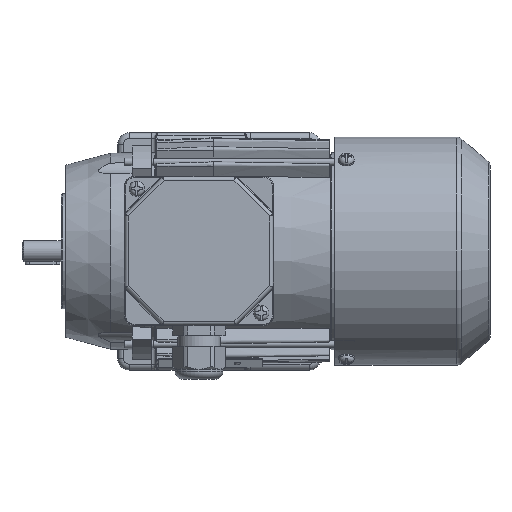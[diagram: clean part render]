
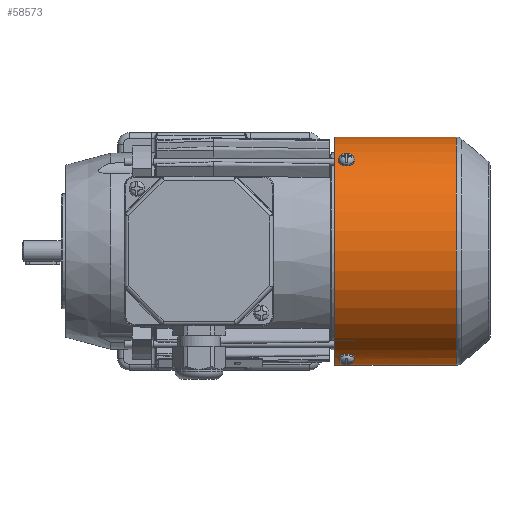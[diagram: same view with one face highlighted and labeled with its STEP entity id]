
A CAD part, top view. The second image highlights one B-rep face of the part: STEP entity #58573.
In plain terms, the highlighted cylindrical face has radius 59.6 mm (diameter 119.2 mm), a full revolution.
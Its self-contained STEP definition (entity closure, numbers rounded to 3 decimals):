
#1328=CYLINDRICAL_SURFACE('',#62226,59.6);
#1912=B_SPLINE_CURVE_WITH_KNOTS('',3,(#88319,#88320,#88321,#88322,#88323,
#88324,#88325),.UNSPECIFIED.,.F.,.F.,(4,1,1,1,4),(0.,
0.002,0.004,0.006,0.007),
 .UNSPECIFIED.);
#1913=B_SPLINE_CURVE_WITH_KNOTS('',3,(#88327,#88328,#88329,#88330,#88331,
#88332,#88333),.UNSPECIFIED.,.F.,.F.,(4,1,1,1,4),(0.,
0.002,0.004,0.006,0.007),
 .UNSPECIFIED.);
#1914=B_SPLINE_CURVE_WITH_KNOTS('',3,(#88339,#88340,#88341,#88342,#88343,
#88344,#88345),.UNSPECIFIED.,.F.,.F.,(4,1,1,1,4),(0.,0.002,
0.004,0.006,0.008),
 .UNSPECIFIED.);
#1915=B_SPLINE_CURVE_WITH_KNOTS('',3,(#88353,#88354,#88355,#88356,#88357,
#88358,#88359),.UNSPECIFIED.,.F.,.F.,(4,1,1,1,4),(0.,
0.002,0.004,0.006,0.008),
 .UNSPECIFIED.);
#1916=B_SPLINE_CURVE_WITH_KNOTS('',3,(#88370,#88371,#88372,#88373,#88374,
#88375,#88376),.UNSPECIFIED.,.F.,.F.,(4,1,1,1,4),(0.,0.002,
0.004,0.006,0.008),
 .UNSPECIFIED.);
#1917=B_SPLINE_CURVE_WITH_KNOTS('',3,(#88384,#88385,#88386,#88387,#88388,
#88389,#88390),.UNSPECIFIED.,.F.,.F.,(4,1,1,1,4),(0.,0.002,
0.004,0.006,0.008),
 .UNSPECIFIED.);
#3704=CIRCLE('',#62157,59.6);
#3705=CIRCLE('',#62160,59.6);
#3706=CIRCLE('',#62162,59.6);
#3707=CIRCLE('',#62165,59.6);
#3708=CIRCLE('',#62168,59.6);
#3734=CIRCLE('',#62227,59.6);
#13399=ORIENTED_EDGE('',*,*,#21406,.T.);
#13400=ORIENTED_EDGE('',*,*,#21404,.T.);
#13401=ORIENTED_EDGE('',*,*,#21402,.T.);
#13402=ORIENTED_EDGE('',*,*,#21407,.T.);
#13403=ORIENTED_EDGE('',*,*,#21389,.F.);
#13404=ORIENTED_EDGE('',*,*,#21390,.F.);
#13405=ORIENTED_EDGE('',*,*,#21397,.T.);
#13406=ORIENTED_EDGE('',*,*,#21395,.T.);
#13407=ORIENTED_EDGE('',*,*,#21393,.T.);
#13408=ORIENTED_EDGE('',*,*,#21398,.T.);
#13409=ORIENTED_EDGE('',*,*,#21474,.F.);
#13410=ORIENTED_EDGE('',*,*,#21399,.T.);
#21389=EDGE_CURVE('',#26094,#26093,#1912,.T.);
#21390=EDGE_CURVE('',#26093,#26094,#1913,.T.);
#21393=EDGE_CURVE('',#26144,#26145,#1914,.T.);
#21395=EDGE_CURVE('',#26146,#26144,#3704,.F.);
#21397=EDGE_CURVE('',#26147,#26146,#1915,.T.);
#21398=EDGE_CURVE('',#26145,#26147,#3705,.F.);
#21399=EDGE_CURVE('',#26148,#26148,#3706,.F.);
#21402=EDGE_CURVE('',#26149,#26150,#1916,.T.);
#21404=EDGE_CURVE('',#26151,#26149,#3707,.F.);
#21406=EDGE_CURVE('',#26152,#26151,#1917,.T.);
#21407=EDGE_CURVE('',#26150,#26152,#3708,.F.);
#21474=EDGE_CURVE('',#26201,#26201,#3734,.T.);
#26093=VERTEX_POINT('',#88082);
#26094=VERTEX_POINT('',#88083);
#26144=VERTEX_POINT('',#88336);
#26145=VERTEX_POINT('',#88338);
#26146=VERTEX_POINT('',#88348);
#26147=VERTEX_POINT('',#88352);
#26148=VERTEX_POINT('',#88364);
#26149=VERTEX_POINT('',#88367);
#26150=VERTEX_POINT('',#88369);
#26151=VERTEX_POINT('',#88379);
#26152=VERTEX_POINT('',#88383);
#26201=VERTEX_POINT('',#88601);
#35772=EDGE_LOOP('',(#13399,#13400,#13401,#13402));
#35773=EDGE_LOOP('',(#13403,#13404));
#35774=EDGE_LOOP('',(#13405,#13406,#13407,#13408));
#35775=EDGE_LOOP('',(#13409));
#35776=EDGE_LOOP('',(#13410));
#38515=FACE_BOUND('',#35772,.T.);
#38516=FACE_BOUND('',#35773,.T.);
#38517=FACE_BOUND('',#35774,.T.);
#38518=FACE_BOUND('',#35775,.T.);
#38519=FACE_BOUND('',#35776,.T.);
#58573=ADVANCED_FACE('',(#38515,#38516,#38517,#38518,#38519),#1328,.T.);
#62157=AXIS2_PLACEMENT_3D('',#88349,#72004,#72005);
#62160=AXIS2_PLACEMENT_3D('',#88361,#72011,#72012);
#62162=AXIS2_PLACEMENT_3D('',#88363,#72015,#72016);
#62165=AXIS2_PLACEMENT_3D('',#88380,#72024,#72025);
#62168=AXIS2_PLACEMENT_3D('',#88392,#72031,#72032);
#62226=AXIS2_PLACEMENT_3D('',#88599,#72179,#72180);
#62227=AXIS2_PLACEMENT_3D('',#88600,#72181,#72182);
#72004=DIRECTION('',(-1.,0.,0.));
#72005=DIRECTION('',(0.,0.866,-0.5));
#72011=DIRECTION('',(1.,0.,0.));
#72012=DIRECTION('',(0.,-0.866,0.5));
#72015=DIRECTION('',(1.,0.,0.));
#72016=DIRECTION('',(0.,0.,-1.));
#72024=DIRECTION('',(-1.,0.,0.));
#72025=DIRECTION('',(0.,0.,1.));
#72031=DIRECTION('',(1.,0.,0.));
#72032=DIRECTION('',(0.,0.,-1.));
#72179=DIRECTION('',(-1.,0.,0.));
#72180=DIRECTION('',(0.,0.,1.));
#72181=DIRECTION('',(-1.,0.,0.));
#72182=DIRECTION('',(0.,0.,1.));
#88082=CARTESIAN_POINT('',(67.,8.295,-59.02));
#88083=CARTESIAN_POINT('',(72.,8.295,-59.02));
#88319=CARTESIAN_POINT('',(72.,8.295,-59.02));
#88320=CARTESIAN_POINT('',(71.937,7.681,-59.106));
#88321=CARTESIAN_POINT('',(71.356,6.499,-59.249));
#88322=CARTESIAN_POINT('',(69.502,5.777,-59.318));
#88323=CARTESIAN_POINT('',(67.649,6.493,-59.25));
#88324=CARTESIAN_POINT('',(67.063,7.681,-59.106));
#88325=CARTESIAN_POINT('',(67.,8.295,-59.02));
#88327=CARTESIAN_POINT('',(67.,8.295,-59.02));
#88328=CARTESIAN_POINT('',(67.063,8.908,-58.934));
#88329=CARTESIAN_POINT('',(67.644,10.084,-58.746));
#88330=CARTESIAN_POINT('',(69.498,10.797,-58.613));
#88331=CARTESIAN_POINT('',(71.351,10.09,-58.745));
#88332=CARTESIAN_POINT('',(71.937,8.908,-58.934));
#88333=CARTESIAN_POINT('',(72.,8.295,-59.02));
#88336=CARTESIAN_POINT('',(72.,46.437,37.36));
#88338=CARTESIAN_POINT('',(67.,46.437,37.36));
#88339=CARTESIAN_POINT('',(72.,46.437,37.36));
#88340=CARTESIAN_POINT('',(72.,46.023,37.874));
#88341=CARTESIAN_POINT('',(71.458,45.191,38.867));
#88342=CARTESIAN_POINT('',(69.502,44.648,39.479));
#88343=CARTESIAN_POINT('',(67.542,45.19,38.869));
#88344=CARTESIAN_POINT('',(67.,46.023,37.874));
#88345=CARTESIAN_POINT('',(67.,46.437,37.36));
#88348=CARTESIAN_POINT('',(72.,47.484,36.02));
#88349=CARTESIAN_POINT('',(72.,0.,0.));
#88352=CARTESIAN_POINT('',(67.,47.484,36.02));
#88353=CARTESIAN_POINT('',(67.,47.484,36.02));
#88354=CARTESIAN_POINT('',(67.,47.883,35.493));
#88355=CARTESIAN_POINT('',(67.542,48.645,34.446));
#88356=CARTESIAN_POINT('',(69.498,49.108,33.771));
#88357=CARTESIAN_POINT('',(71.458,48.646,34.444));
#88358=CARTESIAN_POINT('',(72.,47.883,35.493));
#88359=CARTESIAN_POINT('',(72.,47.484,36.02));
#88361=CARTESIAN_POINT('',(67.,0.,0.));
#88363=CARTESIAN_POINT('',(126.809,0.,0.));
#88364=CARTESIAN_POINT('',(126.809,0.,-59.6));
#88367=CARTESIAN_POINT('',(72.,-55.573,21.536));
#88369=CARTESIAN_POINT('',(67.,-55.573,21.536));
#88370=CARTESIAN_POINT('',(72.,-55.573,21.536));
#88371=CARTESIAN_POINT('',(72.,-55.812,20.92));
#88372=CARTESIAN_POINT('',(71.458,-56.255,19.703));
#88373=CARTESIAN_POINT('',(69.502,-56.514,18.927));
#88374=CARTESIAN_POINT('',(67.542,-56.256,19.701));
#88375=CARTESIAN_POINT('',(67.,-55.812,20.92));
#88376=CARTESIAN_POINT('',(67.,-55.573,21.536));
#88379=CARTESIAN_POINT('',(72.,-54.936,23.112));
#88380=CARTESIAN_POINT('',(72.,0.,0.));
#88383=CARTESIAN_POINT('',(67.,-54.936,23.112));
#88384=CARTESIAN_POINT('',(67.,-54.936,23.112));
#88385=CARTESIAN_POINT('',(67.,-54.68,23.721));
#88386=CARTESIAN_POINT('',(67.542,-54.154,24.905));
#88387=CARTESIAN_POINT('',(69.498,-53.8,25.643));
#88388=CARTESIAN_POINT('',(71.458,-54.153,24.907));
#88389=CARTESIAN_POINT('',(72.,-54.68,23.721));
#88390=CARTESIAN_POINT('',(72.,-54.936,23.112));
#88392=CARTESIAN_POINT('',(67.,0.,0.));
#88599=CARTESIAN_POINT('',(3.5,0.,0.));
#88600=CARTESIAN_POINT('',(63.5,0.,0.));
#88601=CARTESIAN_POINT('',(63.5,0.,59.6));
